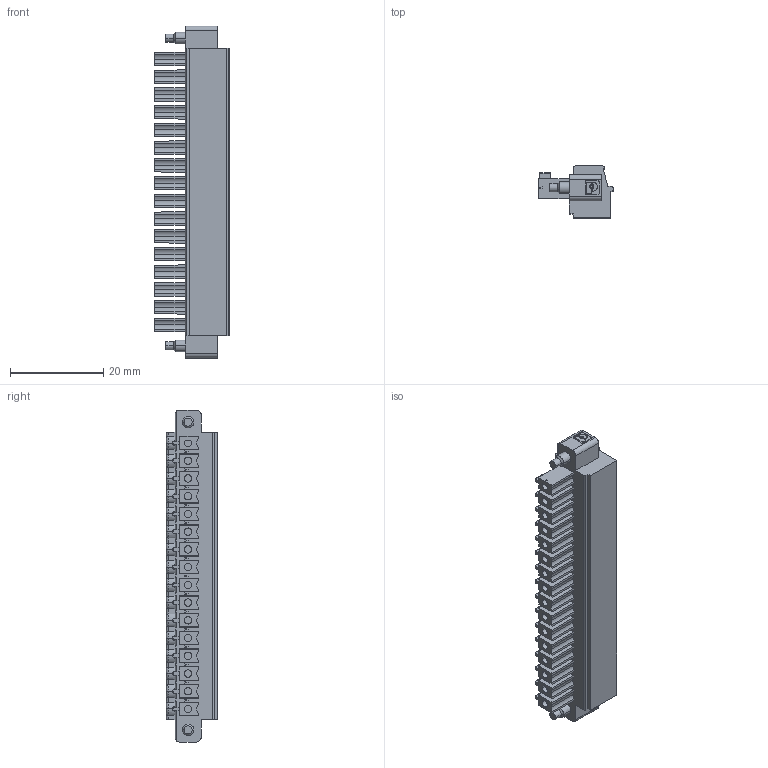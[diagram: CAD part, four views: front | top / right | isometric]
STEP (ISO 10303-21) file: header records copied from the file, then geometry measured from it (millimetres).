
FILE_DESCRIPTION((''),'2;1');
FILE_NAME('CU_USB-621X_CONN_KIT','2010-07-21T',('chrisj'),(''),'PRO/ENGINEER BY PARAMETRIC TECHNOLOGY CORPORATION, 2006510','PRO/ENGINEER BY PARAMETRIC TECHNOLOGY CORPORATION, 2006510','');
FILE_SCHEMA(('AUTOMOTIVE_DESIGN_CC2 { 1 2 10303 214 -1 1 5 2 }'));
Length unit declared in the file: inch
Products named in the file (1): CU_USB-621X_CONN_KIT
Bounding box: 16.1 x 11.1 x 71.35 mm (x, y, z)
Volume: 6519.1 mm3; surface area: 5729.4 mm2
Topology: 1 solids, 1 shells, 1218 faces, 3209 edges, 2070 vertices
Faces by surface type: plane 644, cylinder 378, torus 96, cone 68, sphere 32
Entity records: 38302 total; most frequent: CARTESIAN_POINT 8275, ORIENTED_EDGE 6354, DIRECTION 6137, EDGE_CURVE 3177, AXIS2_PLACEMENT_3D 2174, VERTEX_POINT 2070, VECTOR 1789, LINE 1789
